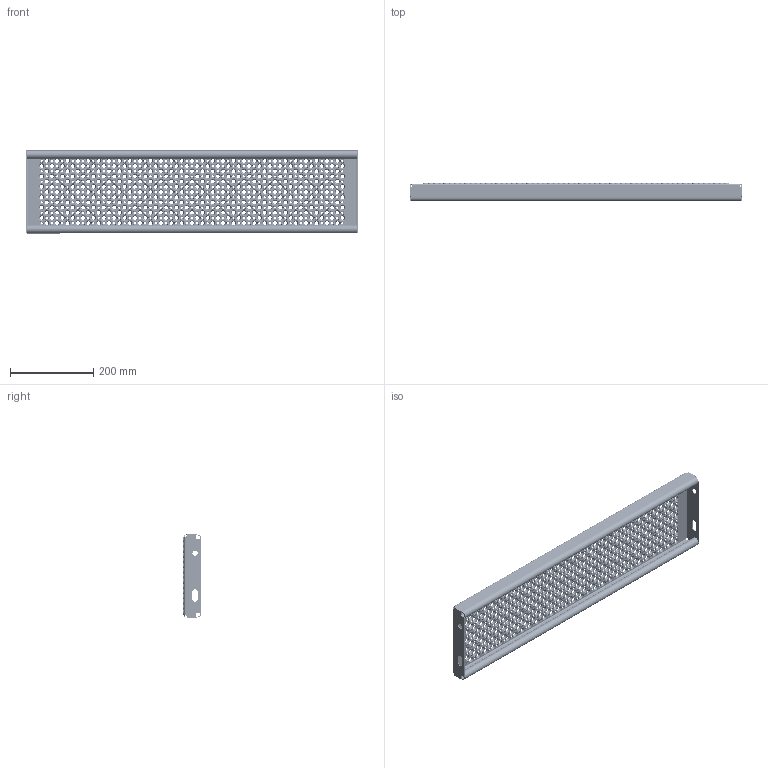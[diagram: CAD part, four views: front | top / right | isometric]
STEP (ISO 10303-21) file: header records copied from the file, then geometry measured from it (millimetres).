
FILE_DESCRIPTION (( 'STEP AP214' ), '1' );
FILE_NAME ('OPTIMO-Tread-Achil-O2-800x200x45x2-st240-F100110100.STEP', '2021-03-15T09:41:21', ( '' ), ( '' ), 'SwSTEP 2.0', 'SolidWorks 2021', '' );
FILE_SCHEMA (( 'AUTOMOTIVE_DESIGN' ));
Products named in the file (1): OPTIMO-Tread-Achil-O2-800x200x45x2-st240-F100110100
Bounding box: 800 x 45 x 200 mm (x, y, z)
Volume: 598156.1 mm3; surface area: 646588.7 mm2
Topology: 1 solids, 1 shells, 8932 faces, 23210 edges, 14280 vertices
Faces by surface type: cone 5310, torus 3540, plane 38, cylinder 36, bspline 8
Entity records: 284344 total; most frequent: DIRECTION 58784, CARTESIAN_POINT 47015, ORIENTED_EDGE 46420, AXIS2_PLACEMENT_3D 26681, EDGE_CURVE 23210, CIRCLE 17756, VERTEX_POINT 14280, EDGE_LOOP 10710
